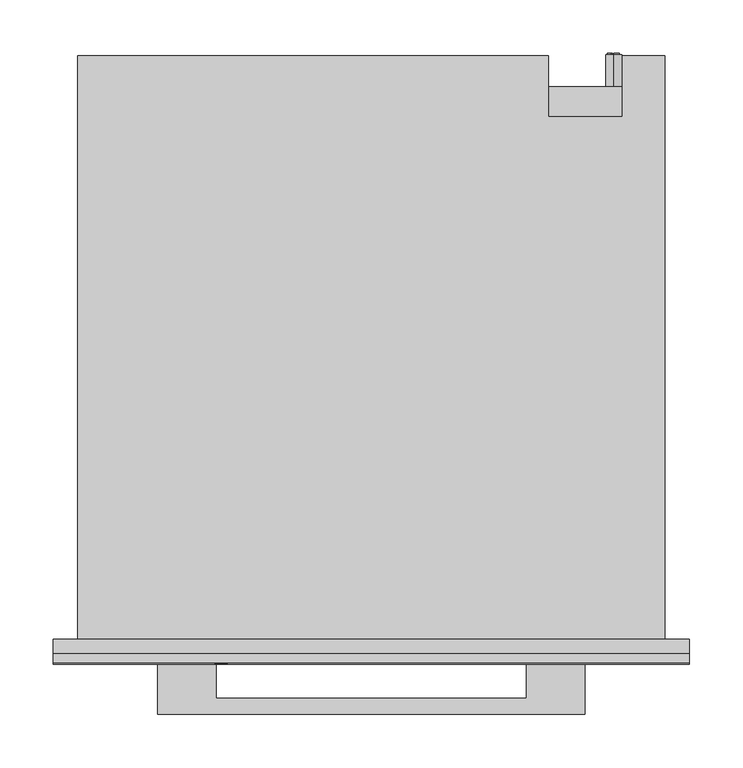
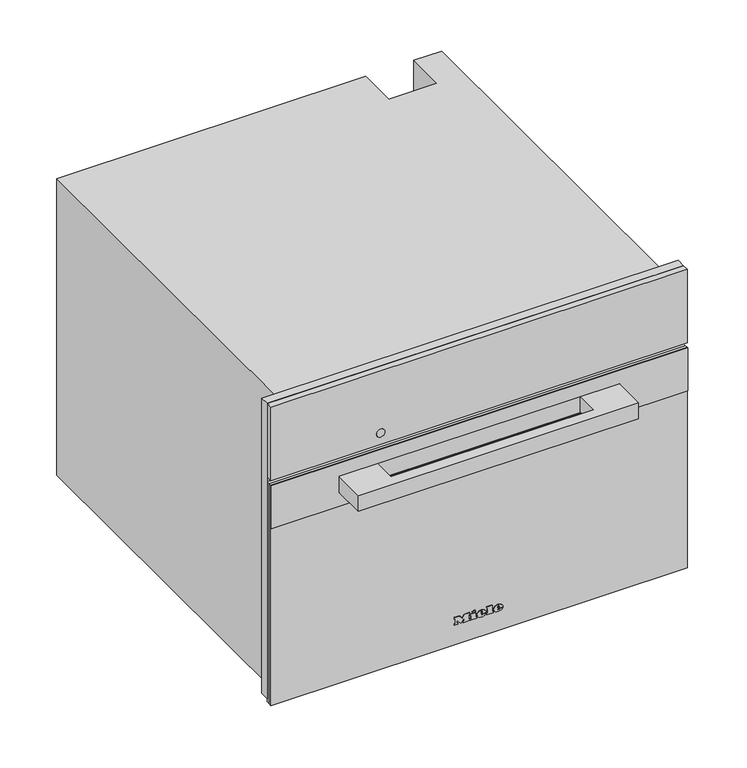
"""IFC4 building model written with IfcOpenShell, lengths in millimetres: proxy geometry, 11147260_J_DGC7840_EDST-CLST : 23784042_J_11147260_DGC7840_EDST-CLST."""

from ifc_helpers import new_model, si_unit, point, frame, frame_2d, origin, place, context, project, spatial, polyline, circle_curve, ellipse_curve, trimmed, segment, composite_curve, outline, extrude, faceted_brep, source, transform, mapped, element, save
from ifc_brep_helpers import plane_surface, cylinder_surface, revolved_surface, extruded_surface, advanced_brep


def specialty_equipment_a42e8c18(model_context):
    return source(origin(), model_context, "Body", "SolidModel", [
        extrude(outline(polyline([(455.0, 297.5), (455.0, -297.5), (9.0, -297.5), (9.0, 297.5), (455.0, 297.5)]), holes=[polyline([(344.0, -272.5), (344.0, 272.5), (27.0, 272.5), (27.0, -272.5), (344.0, -272.5)])]), frame((0.0, -13.0, 0.0), z_axis=(0.0, 1.0, 0.0), x_axis=(0.0, 0.0, 1.0)), (0.0, 0.0, 1.0), 13.0),
        advanced_brep(
        [(227.0, 547.0, 255.5), (227.0, 547.0, 240.5), (221.4098301, 547.0, 243.0), (225.5, 547.0, 243.0), (225.5, 547.0, 253.0), (224.4955303, 547.0, 253.0), (224.4955303, 547.0, 244.0), (221.0315043, 547.0, 244.0), (221.0315043, 547.0, 243.4582978), (232.0, 547.0, 243.0), (232.0, 547.0, 253.0), (227.0, 547.0, 253.0), (227.0, 547.0, 252.0), (231.0, 547.0, 252.0), (231.0, 547.0, 248.5), (228.0, 547.0, 248.5), (228.0, 547.0, 247.5), (231.0, 547.0, 247.5), (231.0, 547.0, 244.0), (227.0, 547.0, 244.0), (227.0, 547.0, 243.0), (227.0, 517.0, 240.5), (227.0, 517.0, 255.5), (232.0, 548.0, 253.0), (232.0, 548.0, 243.0), (227.0, 548.0, 243.0), (227.0, 548.0, 244.0), (231.0, 548.0, 244.0), (231.0, 548.0, 247.5), (228.0, 548.0, 247.5), (228.0, 548.0, 248.5), (231.0, 548.0, 248.5), (231.0, 548.0, 252.0), (227.0, 548.0, 252.0), (227.0, 548.0, 253.0), (225.5, 548.0, 243.0), (221.0315043, 548.0, 243.0), (221.0315043, 548.0, 244.0), (224.4955303, 548.0, 244.0), (224.4955303, 548.0, 253.0), (225.5, 548.0, 253.0), (221.0315043, 547.0, 243.0)],
        [
            (0, 1, circle_curve(frame((227.0, 547.0, 248.0), z_axis=(0.0, 1.0, 0.0), x_axis=(0.0, 0.0, 1.0)), 7.5)),
            (1, 2, circle_curve(frame((227.0, 547.0, 248.0), z_axis=(0.0, 1.0, 0.0), x_axis=(0.0, 0.0, 1.0)), 7.5)),
            (2, 3),
            (3, 4),
            (4, 5),
            (5, 6),
            (6, 7),
            (7, 8),
            (8, 0, circle_curve(frame((227.0, 547.0, 248.0), z_axis=(0.0, 1.0, 0.0), x_axis=(0.0, 0.0, 1.0)), 7.5)),
            (9, 10),
            (10, 11),
            (11, 12),
            (12, 13),
            (13, 14),
            (14, 15),
            (15, 16),
            (16, 17),
            (17, 18),
            (18, 19),
            (19, 20),
            (20, 9),
            (21, 22, circle_curve(frame((227.0, 517.0, 248.0), z_axis=(0.0, -1.0, 0.0), x_axis=(0.0, 0.0, 1.0)), 7.5)),
            (22, 21, circle_curve(frame((227.0, 517.0, 248.0), z_axis=(0.0, -1.0, 0.0), x_axis=(0.0, 0.0, 1.0)), 7.5)),
            (0, 22),
            (21, 1),
            (8, 2, circle_curve(frame((227.0, 547.0, 248.0), z_axis=(0.0, -1.0, 0.0), x_axis=(0.0, 0.0, 1.0)), 7.5)),
            (23, 24),
            (24, 25),
            (25, 26),
            (26, 27),
            (27, 28),
            (28, 29),
            (29, 30),
            (30, 31),
            (31, 32),
            (32, 33),
            (33, 34),
            (34, 23),
            (35, 36),
            (36, 37),
            (37, 38),
            (38, 39),
            (39, 40),
            (40, 35),
            (8, 41),
            (41, 2),
            (23, 10),
            (9, 24),
            (20, 25),
            (19, 26),
            (18, 27),
            (17, 28),
            (16, 29),
            (15, 30),
            (14, 31),
            (13, 32),
            (12, 33),
            (11, 34),
            (35, 3),
            (41, 36),
            (7, 37),
            (6, 38),
            (5, 39),
            (4, 40),
        ],
        [
            plane_surface(frame((227.0, 547.0, 255.5), z_axis=(0.0, 1.0, 0.0), x_axis=(1.0, 0.0, 0.0))),
            plane_surface(frame((227.0, 517.0, 255.5), z_axis=(0.0, -1.0, 0.0), x_axis=(-1.0, 0.0, 0.0))),
            cylinder_surface(frame((227.0, 547.0, 248.0), z_axis=(0.0, -1.0, 0.0), x_axis=(0.0, 0.0, 1.0)), 7.5),
            plane_surface(frame((232.0, 548.0, 253.0), z_axis=(0.0, 1.0, 0.0), x_axis=(0.0, 0.0, -1.0))),
            plane_surface(frame((232.0, 547.0, 253.0), z_axis=(0.0, -1.0, 0.0), x_axis=(0.0, 0.0, 1.0))),
            plane_surface(frame((232.0, 548.0, 253.0), z_axis=(1.0, 0.0, 0.0), x_axis=(0.0, -1.0, 0.0))),
            plane_surface(frame((232.0, 548.0, 243.0), z_axis=(0.0, 0.0, -1.0), x_axis=(0.0, -1.0, 0.0))),
            plane_surface(frame((227.0, 548.0, 243.0), z_axis=(-1.0, 0.0, 0.0), x_axis=(0.0, -1.0, 0.0))),
            plane_surface(frame((227.0, 548.0, 244.0), z_axis=(0.0, 0.0, 1.0), x_axis=(0.0, -1.0, 0.0))),
            plane_surface(frame((231.0, 548.0, 244.0), z_axis=(-1.0, 0.0, 0.0), x_axis=(0.0, -1.0, 0.0))),
            plane_surface(frame((231.0, 548.0, 247.5), z_axis=(0.0, 0.0, -1.0), x_axis=(0.0, -1.0, 0.0))),
            plane_surface(frame((228.0, 548.0, 247.5), z_axis=(-1.0, 0.0, 0.0), x_axis=(0.0, -1.0, 0.0))),
            plane_surface(frame((228.0, 548.0, 248.5), z_axis=(0.0, 0.0, 1.0), x_axis=(0.0, -1.0, 0.0))),
            plane_surface(frame((231.0, 548.0, 248.5), z_axis=(-1.0, 0.0, 0.0), x_axis=(0.0, -1.0, 0.0))),
            plane_surface(frame((231.0, 548.0, 252.0), z_axis=(0.0, 0.0, -1.0), x_axis=(0.0, -1.0, 0.0))),
            plane_surface(frame((227.0, 548.0, 252.0), z_axis=(-1.0, 0.0, 0.0), x_axis=(0.0, -1.0, 0.0))),
            plane_surface(frame((227.0, 548.0, 253.0), z_axis=(0.0, 0.0, 1.0), x_axis=(0.0, -1.0, 0.0))),
            plane_surface(frame((225.5, 548.0, 243.0), z_axis=(0.0, 0.0, -1.0), x_axis=(0.0, -1.0, 0.0))),
            plane_surface(frame((221.0315043, 548.0, 243.0), z_axis=(-1.0, 0.0, 0.0), x_axis=(0.0, -1.0, 0.0))),
            plane_surface(frame((221.0315043, 548.0, 244.0), z_axis=(0.0, 0.0, 1.0), x_axis=(0.0, -1.0, 0.0))),
            plane_surface(frame((224.4955303, 548.0, 244.0), z_axis=(-1.0, 0.0, 0.0), x_axis=(0.0, -1.0, 0.0))),
            plane_surface(frame((224.4955303, 548.0, 253.0), z_axis=(0.0, 0.0, 1.0), x_axis=(0.0, -1.0, 0.0))),
            plane_surface(frame((225.5, 548.0, 253.0), z_axis=(1.0, 0.0, 0.0), x_axis=(0.0, -1.0, 0.0))),
        ],
        [
            (0, [[1, 2, 3, 4, 5, 6, 7, 8, 9], [10, 11, 12, 13, 14, 15, 16, 17, 18, 19, 20, 21]]),
            (1, [[22, 23]]),
            (2, [[-1, 24, -22, 25]]),
            (2, [[-23, -24, -9, 26, -2, -25]]),
            (3, [[27, 28, 29, 30, 31, 32, 33, 34, 35, 36, 37, 38]]),
            (3, [[39, 40, 41, 42, 43, 44]]),
            (4, [[45, 46, -26]]),
            (5, [[-27, 47, -10, 48]]),
            (6, [[-28, -48, -21, 49]]),
            (7, [[-29, -49, -20, 50]]),
            (8, [[-30, -50, -19, 51]]),
            (9, [[-31, -51, -18, 52]]),
            (10, [[-32, -52, -17, 53]]),
            (11, [[-33, -53, -16, 54]]),
            (12, [[-34, -54, -15, 55]]),
            (13, [[-35, -55, -14, 56]]),
            (14, [[-36, -56, -13, 57]]),
            (15, [[-37, -57, -12, 58]]),
            (16, [[-38, -58, -11, -47]]),
            (17, [[-39, 59, -3, -46, 60]]),
            (18, [[-40, -60, -45, -8, 61]]),
            (19, [[-41, -61, -7, 62]]),
            (20, [[-42, -62, -6, 63]]),
            (21, [[-43, -63, -5, 64]]),
            (22, [[-44, -64, -4, -59]]),
        ],
    ),
        faceted_brep([(-275.0, 546.0, 0.0), (-275.0, 546.0, 448.0), (166.0, 546.0, 448.0), (166.0, 546.0, 0.0), (235.0, 546.0, 448.0), (275.0, 546.0, 448.0), (275.0, 546.0, 338.0), (235.0, 546.0, 338.0), (275.0, 0.0, 448.0), (-275.0, 0.0, 448.0), (-275.0, 0.0, 0.0), (275.0, 0.0, 0.0), (-272.5, 0.0, 344.0), (272.5, 0.0, 344.0), (272.5, 0.0, 27.0), (-272.5, 0.0, 27.0), (235.0, 489.0, 448.0), (166.0, 489.0, 448.0), (166.0, 517.0, 0.0), (275.0, 517.0, 0.0), (275.0, 517.0, 338.0), (272.5, 17.0, 344.0), (-272.5, 17.0, 344.0), (-272.5, 17.0, 27.0), (272.5, 17.0, 27.0), (231.0, 17.0, 307.0), (231.0, 17.0, 65.0), (-231.0, 17.0, 65.0), (-231.0, 17.0, 307.0), (231.0, 411.0, 307.0), (-231.0, 411.0, 307.0), (-231.0, 411.0, 65.0), (231.0, 411.0, 65.0), (235.0, 489.0, 337.0), (166.0, 489.0, 337.0), (166.0, 517.0, 337.0), (235.0, 517.0, 337.0), (235.0, 517.0, 338.0)], [[[0, 1, 2, 3]], [[4, 5, 6, 7]], [[8, 9, 10, 11], [12, 13, 14, 15]], [[9, 8, 5, 4, 16, 17, 2, 1]], [[1, 0, 10, 9]], [[11, 10, 0, 3, 18, 19]], [[8, 11, 19, 20, 6, 5]], [[21, 22, 23, 24], [25, 26, 27, 28]], [[22, 21, 13, 12]], [[23, 22, 12, 15]], [[24, 23, 15, 14]], [[21, 24, 14, 13]], [[29, 30, 31, 32]], [[29, 32, 26, 25]], [[32, 31, 27, 26]], [[31, 30, 28, 27]], [[30, 29, 25, 28]], [[16, 33, 34, 17]], [[17, 34, 35, 18, 3, 2]], [[34, 33, 36, 35]], [[33, 16, 4, 7, 37, 36]], [[37, 20, 19, 18, 35, 36]], [[20, 37, 7, 6]]]),
        advanced_brep(
        [(26.2998, -23.0, 36.7018), (26.2998, -23.0, 37.8532), (33.9264, -23.0, 37.8532), (20.6568, -23.0, 37.8532), (23.7918, -23.0, 34.0), (33.7326, -23.0, 36.7018), (30.2898, -23.0, 36.7018), (27.5766, -23.0, 35.425), (26.2998, -23.0, 39.3124), (26.2998, -23.0, 40.555), (28.2492, -23.0, 40.555), (28.2492, -23.0, 39.3124), (26.2998, -22.0, 36.7018), (27.5766, -22.0, 35.425), (30.2898, -22.0, 36.7018), (33.7326, -22.0, 36.7018), (23.7918, -22.0, 34.0), (20.6568, -22.0, 37.8532), (33.9264, -22.0, 37.8532), (26.2998, -22.0, 37.8532), (26.2998, -22.0, 39.3124), (28.2492, -22.0, 39.3124), (28.2492, -22.0, 40.555), (26.2998, -22.0, 40.555)],
        [
            (0, 1),
            (1, 2),
            (2, 3, ellipse_curve(frame((27.2916, -23.0, 37.8532), z_axis=(0.0, -1.0, 0.0), x_axis=(-1.0, 0.0, 0.0)), 6.6348, 5.4834)),
            (3, 4, circle_curve(frame((25.0686622, -23.0, 38.2408), z_axis=(0.0, -1.0, 0.0), x_axis=(0.0, 0.0, -1.0)), 4.4288556)),
            (4, 5, circle_curve(frame((27.1587808, -23.0, 41.2504), z_axis=(0.0, -1.0, 0.0), x_axis=(0.0, 0.0, -1.0)), 7.9940516)),
            (5, 6),
            (6, 7, circle_curve(frame((28.1338588, -23.0, 37.762), z_axis=(0.0, 1.0, 0.0), x_axis=(0.0, 0.0, -1.0)), 2.4025208)),
            (7, 0, circle_curve(frame((27.5766, -23.0, 36.7018), z_axis=(0.0, 1.0, 0.0), x_axis=(0.0, 0.0, -1.0)), 1.2768)),
            (8, 9),
            (9, 10, circle_curve(frame((27.2745, -23.0, 40.555), z_axis=(0.0, 1.0, 0.0), x_axis=(0.0, 0.0, -1.0)), 0.9747)),
            (10, 11),
            (11, 8),
            (12, 13, circle_curve(frame((27.5766, -22.0, 36.7018), z_axis=(0.0, -1.0, 0.0), x_axis=(0.0, 0.0, -1.0)), 1.2768)),
            (13, 14, circle_curve(frame((28.1338588, -22.0, 37.762), z_axis=(0.0, -1.0, 0.0), x_axis=(0.0, 0.0, -1.0)), 2.4025208)),
            (14, 15),
            (15, 16, circle_curve(frame((27.1587808, -22.0, 41.2504), z_axis=(0.0, 1.0, 0.0), x_axis=(0.0, 0.0, -1.0)), 7.9940516)),
            (16, 17, circle_curve(frame((25.0686622, -22.0, 38.2408), z_axis=(0.0, 1.0, 0.0), x_axis=(0.0, 0.0, -1.0)), 4.4288556)),
            (17, 18, ellipse_curve(frame((27.2916, -22.0, 37.8532), z_axis=(0.0, 1.0, 0.0), x_axis=(-1.0, 0.0, 0.0)), 6.6348, 5.4834)),
            (18, 19),
            (19, 12),
            (20, 21),
            (21, 22),
            (22, 23, circle_curve(frame((27.2745, -22.0, 40.555), z_axis=(0.0, -1.0, 0.0), x_axis=(0.0, 0.0, -1.0)), 0.9747)),
            (23, 20),
            (0, 12),
            (19, 1),
            (18, 2),
            (5, 15),
            (14, 6),
            (17, 3),
            (13, 7),
            (16, 4),
            (8, 20),
            (23, 9),
            (22, 10),
            (21, 11),
        ],
        [
            plane_surface(frame((26.2998, -23.0, 37.8532), z_axis=(0.0, -1.0, 0.0), x_axis=(0.0, 0.0, 1.0))),
            plane_surface(frame((26.2998, -22.0, 37.8532), z_axis=(0.0, 1.0, 0.0), x_axis=(0.0, 0.0, -1.0))),
            plane_surface(frame((26.2998, -23.0, 36.7018), z_axis=(1.0, 0.0, 0.0), x_axis=(0.0, 1.0, 0.0))),
            plane_surface(frame((26.2998, -23.0, 37.8532), z_axis=(0.0, 0.0, -1.0), x_axis=(0.0, 1.0, 0.0))),
            plane_surface(frame((33.7326, -23.0, 36.7018), z_axis=(0.0, 0.0, 1.0), x_axis=(0.0, 1.0, 0.0))),
            extruded_surface(trimmed(ellipse_curve(frame((27.2916, -21.0, 37.8532), z_axis=(0.0, -1.0, 0.0), x_axis=(-1.0, 0.0, 0.0)), 6.6348, 5.4834), [point((33.9264, -21.0, 37.8532))], [point((20.6568, -21.0, 37.8532))], True, "CARTESIAN"), (0.0, -1.0, 0.0), 1.0),
            revolved_surface(polyline([(28.1338588, -22.0, 35.3594792), (28.1338588, -23.0, 35.3594792)]), (28.1338588, -22.0, 37.762), (0.0, 1.0, 0.0)),
            revolved_surface(polyline([(27.5766, -22.0, 35.425), (27.5766, -23.0, 35.425)]), (27.5766, -22.0, 36.7018), (0.0, 1.0, 0.0)),
            cylinder_surface(frame((25.0686622, -22.0, 38.2408), z_axis=(0.0, -1.0, 0.0), x_axis=(0.0, 0.0, -1.0)), 4.4288556),
            cylinder_surface(frame((27.1587808, -22.0, 41.2504), z_axis=(0.0, -1.0, 0.0), x_axis=(0.0, 0.0, -1.0)), 7.9940516),
            plane_surface(frame((26.2998, -23.0, 39.3124), z_axis=(1.0, 0.0, 0.0), x_axis=(0.0, 1.0, 0.0))),
            revolved_surface(polyline([(27.2745, -22.0, 39.5803), (27.2745, -23.0, 39.5803)]), (27.2745, -22.0, 40.555), (0.0, 1.0, 0.0)),
            plane_surface(frame((28.2492, -23.0, 40.555), z_axis=(-1.0, 0.0, 0.0), x_axis=(0.0, 1.0, 0.0))),
            plane_surface(frame((28.2492, -23.0, 39.3124), z_axis=(0.0, 0.0, 1.0), x_axis=(0.0, 1.0, 0.0))),
        ],
        [
            (0, [[1, 2, 3, 4, 5, 6, 7, 8], [9, 10, 11, 12]]),
            (1, [[13, 14, 15, 16, 17, 18, 19, 20], [21, 22, 23, 24]]),
            (2, [[-1, 25, -20, 26]]),
            (3, [[-2, -26, -19, 27]]),
            (4, [[-6, 28, -15, 29]]),
            (5, [[-3, -27, -18, 30]]),
            (6, [[-7, -29, -14, 31]]),
            (7, [[-8, -31, -13, -25]]),
            (8, [[-4, -30, -17, 32]]),
            (9, [[-5, -32, -16, -28]]),
            (10, [[-9, 33, -24, 34]]),
            (11, [[-10, -34, -23, 35]]),
            (12, [[-11, -35, -22, 36]]),
            (13, [[-12, -36, -21, -33]]),
        ],
    ),
        advanced_brep(
        [(2.508, -23.0, 36.7018), (2.508, -23.0, 37.8532), (10.1346, -23.0, 37.8532), (-3.135, -23.0, 37.8532), (0.0, -23.0, 34.0), (9.9408, -23.0, 36.7018), (6.498, -23.0, 36.7018), (3.7848, -23.0, 35.425), (2.508, -23.0, 39.3124), (2.508, -23.0, 40.555), (4.4574, -23.0, 40.555), (4.4574, -23.0, 39.3124), (2.508, -22.0, 36.7018), (3.7848, -22.0, 35.425), (6.498, -22.0, 36.7018), (9.9408, -22.0, 36.7018), (0.0, -22.0, 34.0), (-3.135, -22.0, 37.8532), (10.1346, -22.0, 37.8532), (2.508, -22.0, 37.8532), (2.508, -22.0, 39.3124), (4.4574, -22.0, 39.3124), (4.4574, -22.0, 40.555), (2.508, -22.0, 40.555)],
        [
            (0, 1),
            (1, 2),
            (2, 3, ellipse_curve(frame((3.4998, -23.0, 37.8532), z_axis=(0.0, -1.0, 0.0), x_axis=(-1.0, 0.0, 0.0)), 6.6348, 5.4834)),
            (3, 4, circle_curve(frame((1.2768622, -23.0, 38.2408), z_axis=(0.0, -1.0, 0.0), x_axis=(0.0, 0.0, -1.0)), 4.4288556)),
            (4, 5, circle_curve(frame((3.3669808, -23.0, 41.2504), z_axis=(0.0, -1.0, 0.0), x_axis=(0.0, 0.0, -1.0)), 7.9940516)),
            (5, 6),
            (6, 7, circle_curve(frame((4.3420588, -23.0, 37.762), z_axis=(0.0, 1.0, 0.0), x_axis=(0.0, 0.0, -1.0)), 2.4025208)),
            (7, 0, circle_curve(frame((3.7848, -23.0, 36.7018), z_axis=(0.0, 1.0, 0.0), x_axis=(0.0, 0.0, -1.0)), 1.2768)),
            (8, 9),
            (9, 10, circle_curve(frame((3.4827, -23.0, 40.555), z_axis=(0.0, 1.0, 0.0), x_axis=(0.0, 0.0, -1.0)), 0.9747)),
            (10, 11),
            (11, 8),
            (12, 13, circle_curve(frame((3.7848, -22.0, 36.7018), z_axis=(0.0, -1.0, 0.0), x_axis=(0.0, 0.0, -1.0)), 1.2768)),
            (13, 14, circle_curve(frame((4.3420588, -22.0, 37.762), z_axis=(0.0, -1.0, 0.0), x_axis=(0.0, 0.0, -1.0)), 2.4025208)),
            (14, 15),
            (15, 16, circle_curve(frame((3.3669808, -22.0, 41.2504), z_axis=(0.0, 1.0, 0.0), x_axis=(0.0, 0.0, -1.0)), 7.9940516)),
            (16, 17, circle_curve(frame((1.2768622, -22.0, 38.2408), z_axis=(0.0, 1.0, 0.0), x_axis=(0.0, 0.0, -1.0)), 4.4288556)),
            (17, 18, ellipse_curve(frame((3.4998, -22.0, 37.8532), z_axis=(0.0, 1.0, 0.0), x_axis=(-1.0, 0.0, 0.0)), 6.6348, 5.4834)),
            (18, 19),
            (19, 12),
            (20, 21),
            (21, 22),
            (22, 23, circle_curve(frame((3.4827, -22.0, 40.555), z_axis=(0.0, -1.0, 0.0), x_axis=(0.0, 0.0, -1.0)), 0.9747)),
            (23, 20),
            (0, 12),
            (19, 1),
            (18, 2),
            (5, 15),
            (14, 6),
            (17, 3),
            (13, 7),
            (16, 4),
            (8, 20),
            (23, 9),
            (22, 10),
            (21, 11),
        ],
        [
            plane_surface(frame((2.508, -23.0, 37.8532), z_axis=(0.0, -1.0, 0.0), x_axis=(0.0, 0.0, 1.0))),
            plane_surface(frame((2.508, -22.0, 37.8532), z_axis=(0.0, 1.0, 0.0), x_axis=(0.0, 0.0, -1.0))),
            plane_surface(frame((2.508, -23.0, 36.7018), z_axis=(1.0, 0.0, 0.0), x_axis=(0.0, 1.0, 0.0))),
            plane_surface(frame((2.508, -23.0, 37.8532), z_axis=(0.0, 0.0, -1.0), x_axis=(0.0, 1.0, 0.0))),
            plane_surface(frame((9.9408, -23.0, 36.7018), z_axis=(0.0, 0.0, 1.0), x_axis=(0.0, 1.0, 0.0))),
            extruded_surface(trimmed(ellipse_curve(frame((3.4998, -21.0, 37.8532), z_axis=(0.0, -1.0, 0.0), x_axis=(-1.0, 0.0, 0.0)), 6.6348, 5.4834), [point((10.1346, -21.0, 37.8532))], [point((-3.135, -21.0, 37.8532))], True, "CARTESIAN"), (0.0, -1.0, 0.0), 1.0),
            revolved_surface(polyline([(4.3420588, -22.0, 35.3594792), (4.3420588, -23.0, 35.3594792)]), (4.3420588, -22.0, 37.762), (0.0, 1.0, 0.0)),
            revolved_surface(polyline([(3.7848, -22.0, 35.425), (3.7848, -23.0, 35.425)]), (3.7848, -22.0, 36.7018), (0.0, 1.0, 0.0)),
            cylinder_surface(frame((1.2768622, -22.0, 38.2408), z_axis=(0.0, -1.0, 0.0), x_axis=(0.0, 0.0, -1.0)), 4.4288556),
            cylinder_surface(frame((3.3669808, -22.0, 41.2504), z_axis=(0.0, -1.0, 0.0), x_axis=(0.0, 0.0, -1.0)), 7.9940516),
            plane_surface(frame((2.508, -23.0, 39.3124), z_axis=(1.0, 0.0, 0.0), x_axis=(0.0, 1.0, 0.0))),
            revolved_surface(polyline([(3.4827, -22.0, 39.5803), (3.4827, -23.0, 39.5803)]), (3.4827, -22.0, 40.555), (0.0, 1.0, 0.0)),
            plane_surface(frame((4.4574, -23.0, 40.555), z_axis=(-1.0, 0.0, 0.0), x_axis=(0.0, 1.0, 0.0))),
            plane_surface(frame((4.4574, -23.0, 39.3124), z_axis=(0.0, 0.0, 1.0), x_axis=(0.0, 1.0, 0.0))),
        ],
        [
            (0, [[1, 2, 3, 4, 5, 6, 7, 8], [9, 10, 11, 12]]),
            (1, [[13, 14, 15, 16, 17, 18, 19, 20], [21, 22, 23, 24]]),
            (2, [[-1, 25, -20, 26]]),
            (3, [[-2, -26, -19, 27]]),
            (4, [[-6, 28, -15, 29]]),
            (5, [[-3, -27, -18, 30]]),
            (6, [[-7, -29, -14, 31]]),
            (7, [[-8, -31, -13, -25]]),
            (8, [[-4, -30, -17, 32]]),
            (9, [[-5, -32, -16, -28]]),
            (10, [[-9, 33, -24, 34]]),
            (11, [[-10, -34, -23, 35]]),
            (12, [[-11, -35, -22, 36]]),
            (13, [[-12, -36, -21, -33]]),
        ],
    ),
        extrude(outline(polyline([(44.7274, -9.9522), (42.8806, -9.0858), (44.6818, -5.2212), (46.5286, -6.0762), (44.7274, -9.9522)])), frame((0.0, -23.0, 0.0), z_axis=(0.0, 1.0, 0.0), x_axis=(0.0, 0.0, 1.0)), (0.0, 0.0, 1.0), 1.0),
        extrude(outline(polyline([(42.6298, -12.768), (40.5892, -12.768), (40.5892, -11.4114), (35.9152, -11.4114), (35.9152, -12.768), (34.0, -12.768), (34.0, -3.7734), (35.9152, -3.7734), (35.9152, -5.0958), (42.6298, -5.0958), (42.6298, -12.768)])), frame((0.0, -23.0, 0.0), z_axis=(0.0, 1.0, 0.0), x_axis=(0.0, 0.0, 1.0)), (0.0, 0.0, 1.0), 1.0),
        extrude(outline(polyline([(43.5418, 10.773), (43.5418, 12.141), (35.9152, 12.141), (35.9152, 10.773), (34.0, 10.773), (34.0, 20.0184), (35.9152, 20.0184), (35.9152, 18.6162), (45.4, 18.6162), (45.4, 10.773), (43.5418, 10.773)])), frame((0.0, -23.0, 0.0), z_axis=(0.0, 1.0, 0.0), x_axis=(0.0, 0.0, 1.0)), (0.0, 0.0, 1.0), 1.0),
        extrude(outline(polyline([(43.5418, -35.4882), (43.5418, -34.1088), (35.9152, -34.1088), (35.9152, -35.4882), (34.0, -35.4882), (34.0, -30.4722), (35.9152, -30.4722), (35.9152, -31.8402), (40.7429247, -31.8402), (34.0, -26.7444), (40.9402223, -21.6258), (35.9152, -21.6258), (35.9152, -23.028), (34.0, -23.028), (34.0, -13.9308), (35.9152, -13.9308), (35.9152, -15.3786), (43.5418, -15.3786), (43.5418, -13.9308), (45.4, -13.9308), (45.4, -20.8734), (41.125, -24.2022), (45.4, -27.5424), (45.4, -35.4882), (43.5418, -35.4882)])), frame((0.0, -23.0, 0.0), z_axis=(0.0, 1.0, 0.0), x_axis=(0.0, 0.0, 1.0)), (0.0, 0.0, 1.0), 1.0),
        extrude(outline(polyline([(297.5, -22.0), (-297.5, -22.0), (-297.5, -13.0), (297.5, -13.0), (297.5, -22.0)])), frame((0.0, 0.0, 344.0), z_axis=(0.0, 0.0, 1.0), x_axis=(1.0, 0.0, 0.0)), (0.0, 0.0, 1.0), 111.0),
        extrude(outline(composite_curve([segment(trimmed(circle_curve(frame_2d((361.0, -140.5745637)), 6.0), [point((361.0, -146.5745637))], [point((361.0, -134.5745637))], False, "CARTESIAN"), True, "CONTINUOUS"), segment(trimmed(circle_curve(frame_2d((361.0, -140.5745637)), 6.0), [point((361.0, -134.5745637))], [point((361.0, -146.5745637))], False, "CARTESIAN"), True, "CONTINUOUS")], self_intersect=False)), frame((0.0, -22.5, 0.0), z_axis=(0.0, 1.0, 0.0), x_axis=(0.0, 0.0, 1.0)), (0.0, 0.0, 1.0), 1.0),
        extrude(outline(polyline([(337.0, 297.5), (337.0, -297.5), (272.0, -297.5), (272.0, 297.5), (337.0, 297.5)]), holes=[polyline([(317.0, -200.5), (317.0, 200.5), (292.0, 200.5), (292.0, -200.5), (317.0, -200.5)])]), frame((0.0, -23.3, 0.0), z_axis=(0.0, 1.0, 0.0), x_axis=(0.0, 0.0, 1.0)), (0.0, 0.0, 1.0), 1.3),
        extrude(outline(polyline([(-200.0, -70.3), (-200.0, -22.0), (-145.0, -22.0), (-145.0, -55.3), (145.0, -55.3), (145.0, -22.0), (200.0, -22.0), (200.0, -70.3), (-200.0, -70.3)])), frame((0.0, 0.0, 292.5), z_axis=(0.0, 0.0, 1.0), x_axis=(1.0, 0.0, 0.0)), (0.0, 0.0, 1.0), 24.0),
        extrude(outline(polyline([(-297.5, -18.0), (297.5, -18.0), (297.5, -22.0), (-297.5, -22.0), (-297.5, -18.0)])), frame((0.0, 0.0, 4.0), z_axis=(0.0, 0.0, 1.0), x_axis=(1.0, 0.0, 0.0)), (0.0, 0.0, 1.0), 333.0),
        extrude(outline(polyline([(297.5, -18.0), (-297.5, -18.0), (-297.5, -13.0), (297.5, -13.0), (297.5, -18.0)])), frame((0.0, 0.0, 4.0), z_axis=(0.0, 0.0, 1.0), x_axis=(1.0, 0.0, 0.0)), (0.0, 0.0, 1.0), 333.0),
    ])


if __name__ == "__main__":
    model = new_model("IFC4")
    model_context = context("Model", 3, world=origin())
    ifc_project = project(units=[si_unit("LENGTHUNIT", "METRE", prefix="MILLI")], contexts=[model_context])
    site = spatial("IfcSite", under=ifc_project)
    building = spatial("IfcBuilding", under=site)
    placement = place(None, origin())
    specialty_equipment_shape = specialty_equipment_a42e8c18(model_context)
    element("IfcBuildingElementProxy", 1, Name="11147260_J_DGC7840_EDST-CLST : 23784042_J_11147260_DGC7840_EDST-CLST", ObjectType="11147260_J_DGC7840_EDST-CLST : 23784042_J_11147260_DGC7840_EDST-CLST", at=placement, inside=building, context=model_context, shape_type="MappedRepresentation", body=[
        mapped(specialty_equipment_shape, transform((0.0, 0.0, 0.0), x_axis=(1.0, 0.0, 0.0), y_axis=(0.0, 1.0, 0.0), z_axis=(0.0, 0.0, 1.0))),
    ])
    save(model, "model.ifc")
